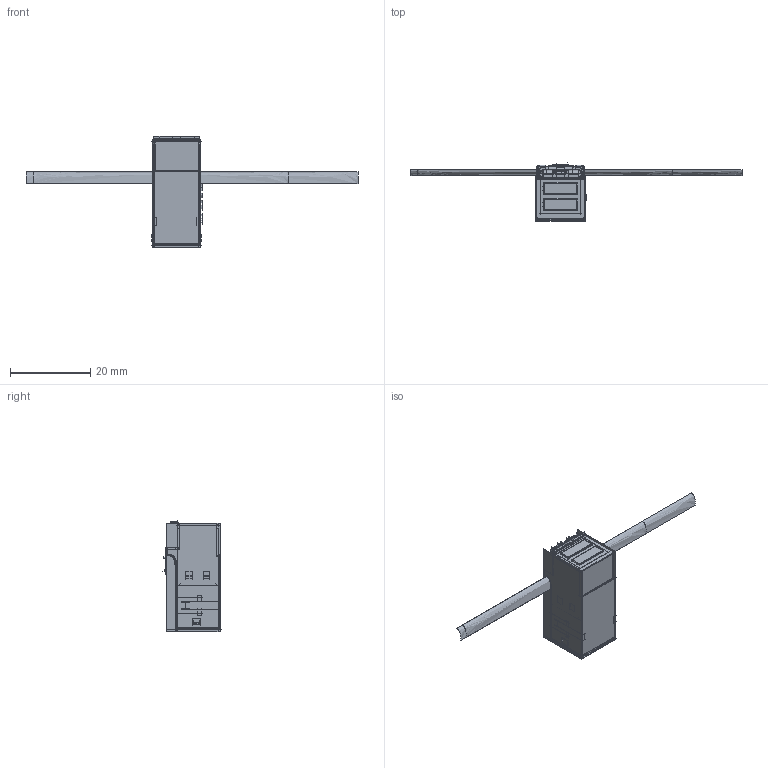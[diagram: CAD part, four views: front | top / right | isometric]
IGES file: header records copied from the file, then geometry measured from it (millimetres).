
Start section:  PTC IGES file: AST8643-0036-01(STR-SR, 27mm).igs
Bounding box: 82.85 x 14.52 x 27.9 mm (x, y, z)
Surface area: 237747.9 mm2 (no closed solid volume)
Topology: 0 solids, 0 shells, 5776 faces, 89906 edges, 114004 vertices
Faces by surface type: bspline 4786, revolution 686, extrusion 304
